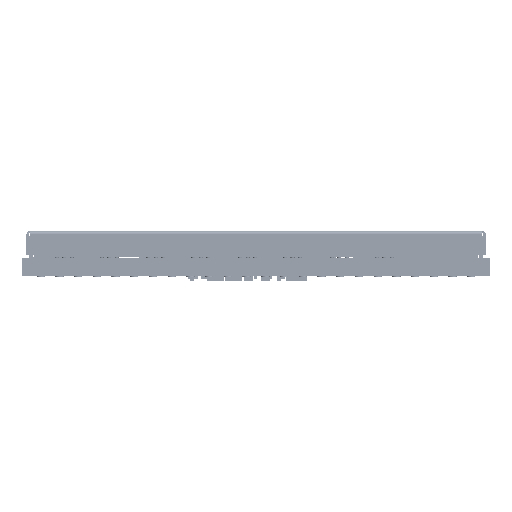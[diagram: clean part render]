
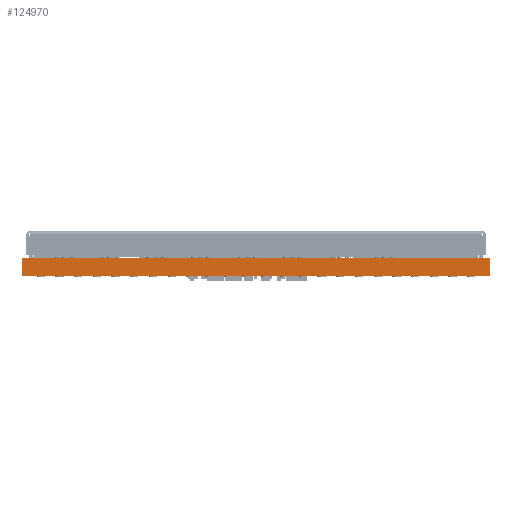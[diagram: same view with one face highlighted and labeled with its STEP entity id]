
A CAD part, left-side view. The second image highlights one B-rep face of the part: STEP entity #124970.
In plain terms, the highlighted planar face has unit normal (-1, 0, 0).
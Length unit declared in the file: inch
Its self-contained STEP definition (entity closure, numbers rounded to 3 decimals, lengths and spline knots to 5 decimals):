
#2270 = CARTESIAN_POINT ( 'NONE',  ( 0., 0., 0.01096 ) ) ;
#7009 = CARTESIAN_POINT ( 'NONE',  ( 0., 1.9685, 0. ) ) ;
#11624 = DIRECTION ( 'NONE',  ( 0., 0., -1. ) ) ;
#21862 = VECTOR ( 'NONE', #85800, 39.37008 ) ;
#24959 = LINE ( 'NONE', #7009, #21862 ) ;
#27170 = VERTEX_POINT ( 'NONE', #84374 ) ;
#29128 = LINE ( 'NONE', #67934, #78460 ) ;
#30752 = VECTOR ( 'NONE', #123883, 39.37008 ) ;
#35272 = CARTESIAN_POINT ( 'NONE',  ( 0., 1.9685, 0.08576 ) ) ;
#38413 = EDGE_LOOP ( 'NONE', ( #67117, #61404, #49781, #44515 ) ) ;
#39918 = VERTEX_POINT ( 'NONE', #59676 ) ;
#40362 = VECTOR ( 'NONE', #110405, 39.37008 ) ;
#44515 = ORIENTED_EDGE ( 'NONE', *, *, #99612, .F. ) ;
#47885 = EDGE_CURVE ( 'NONE', #27170, #87486, #24959, .T. ) ;
#49781 = ORIENTED_EDGE ( 'NONE', *, *, #51050, .T. ) ;
#50876 = PLANE ( 'NONE',  #59095 ) ;
#51050 = EDGE_CURVE ( 'NONE', #39918, #105193, #29128, .T. ) ;
#54198 = FACE_OUTER_BOUND ( 'NONE', #38413, .T. ) ;
#59095 = AXIS2_PLACEMENT_3D ( 'NONE', #60723, #70695, #11624 ) ;
#59676 = CARTESIAN_POINT ( 'NONE',  ( 0., 0., 0.01096 ) ) ;
#60723 = CARTESIAN_POINT ( 'NONE',  ( 0., 1.9685, 0. ) ) ;
#61404 = ORIENTED_EDGE ( 'NONE', *, *, #61737, .F. ) ;
#61737 = EDGE_CURVE ( 'NONE', #39918, #27170, #66525, .T. ) ;
#64801 = CARTESIAN_POINT ( 'NONE',  ( 0., 0., 0.08576 ) ) ;
#66525 = LINE ( 'NONE', #2270, #40362 ) ;
#67117 = ORIENTED_EDGE ( 'NONE', *, *, #47885, .F. ) ;
#67934 = CARTESIAN_POINT ( 'NONE',  ( 0., 0., 0. ) ) ;
#69324 = LINE ( 'NONE', #64801, #30752 ) ;
#70695 = DIRECTION ( 'NONE',  ( 1., 0., 0. ) ) ;
#77888 = DIRECTION ( 'NONE',  ( 0., 0., 1. ) ) ;
#78460 = VECTOR ( 'NONE', #77888, 39.37008 ) ;
#84374 = CARTESIAN_POINT ( 'NONE',  ( 0., 1.9685, 0.01096 ) ) ;
#85800 = DIRECTION ( 'NONE',  ( 0., 0., 1. ) ) ;
#87486 = VERTEX_POINT ( 'NONE', #35272 ) ;
#87912 = CARTESIAN_POINT ( 'NONE',  ( 0., 0., 0.08576 ) ) ;
#99612 = EDGE_CURVE ( 'NONE', #87486, #105193, #69324, .T. ) ;
#105193 = VERTEX_POINT ( 'NONE', #87912 ) ;
#110405 = DIRECTION ( 'NONE',  ( 0., 1., 0. ) ) ;
#123883 = DIRECTION ( 'NONE',  ( 0., -1., 0. ) ) ;
#124970 = ADVANCED_FACE ( 'NONE', ( #54198 ), #50876, .F. ) ;
